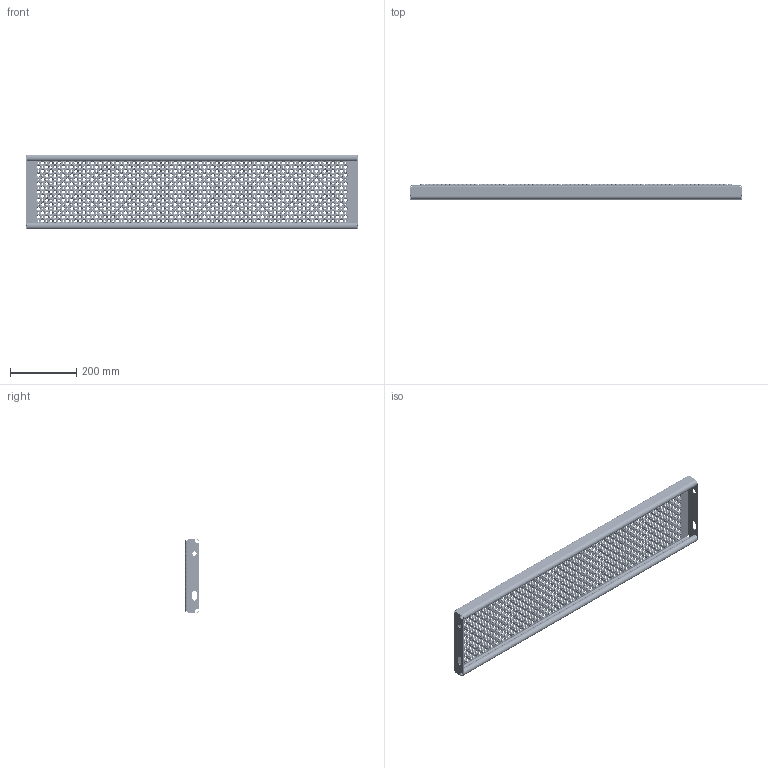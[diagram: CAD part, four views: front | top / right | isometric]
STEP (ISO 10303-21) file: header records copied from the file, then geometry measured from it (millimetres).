
FILE_DESCRIPTION (( 'STEP AP214' ), '1' );
FILE_NAME ('OPTIMO-Tread-Achil-O2-1000x225x45x2-st240-F100210100.STEP', '2021-03-16T07:13:32', ( '' ), ( '' ), 'SwSTEP 2.0', 'SolidWorks 2021', '' );
FILE_SCHEMA (( 'AUTOMOTIVE_DESIGN' ));
Length unit declared in the file: millimetre
Products named in the file (1): OPTIMO-Tread-Achil-O2-1000x225x45x2-st240-F100210100
Bounding box: 1000 x 45 x 225 mm (x, y, z)
Volume: 795853.6 mm3; surface area: 864101.1 mm2
Topology: 1 solids, 1 shells, 12832 faces, 33350 edges, 20520 vertices
Faces by surface type: cone 7650, torus 5100, plane 38, cylinder 36, bspline 8
Entity records: 408364 total; most frequent: DIRECTION 84524, CARTESIAN_POINT 67295, ORIENTED_EDGE 66700, AXIS2_PLACEMENT_3D 38381, EDGE_CURVE 33350, CIRCLE 25556, VERTEX_POINT 20520, EDGE_LOOP 15390
